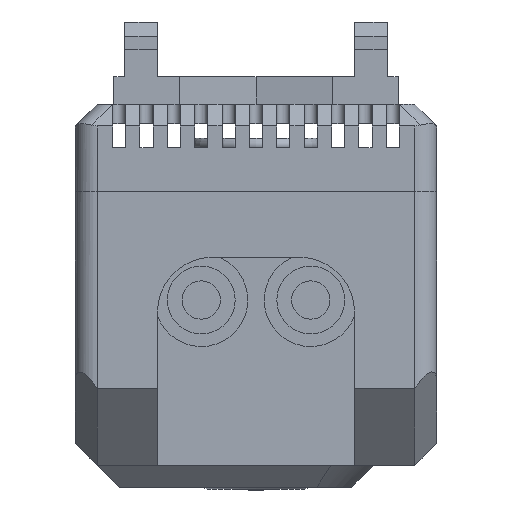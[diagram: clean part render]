
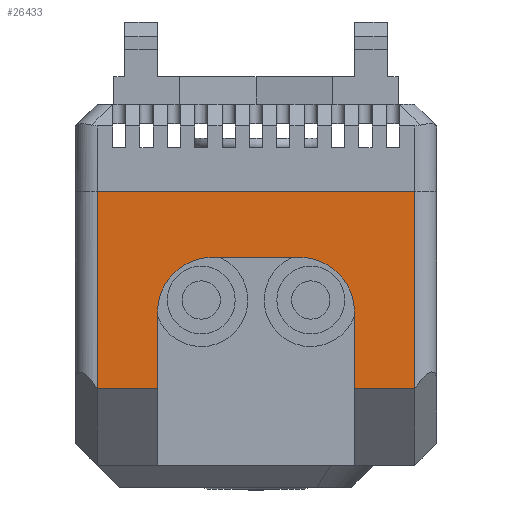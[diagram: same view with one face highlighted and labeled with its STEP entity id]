
A CAD part, front view. The second image highlights one B-rep face of the part: STEP entity #26433.
In plain terms, the highlighted planar face has unit normal (0, -1, 0).
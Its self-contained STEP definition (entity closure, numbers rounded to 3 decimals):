
#1014 = LINE ( 'NONE', #8081, #26251 ) ;
#1124 = CARTESIAN_POINT ( 'NONE',  ( 4., -25., -9.6 ) ) ;
#1125 = VERTEX_POINT ( 'NONE', #41318 ) ;
#1168 = CARTESIAN_POINT ( 'NONE',  ( 9., -25., -31.768 ) ) ;
#1449 = EDGE_LOOP ( 'NONE', ( #40137, #11754, #21294, #13868, #14195, #7949, #44803, #25731, #36512, #7000 ) ) ;
#1911 = VERTEX_POINT ( 'NONE', #7037 ) ;
#3023 = VERTEX_POINT ( 'NONE', #3841 ) ;
#3841 = CARTESIAN_POINT ( 'NONE',  ( 14.5, -25., -21.6 ) ) ;
#4834 = LINE ( 'NONE', #16081, #6311 ) ;
#6072 = VECTOR ( 'NONE', #19227, 1000. ) ;
#6311 = VECTOR ( 'NONE', #30997, 1000. ) ;
#6476 = CARTESIAN_POINT ( 'NONE',  ( -9., -25., -14.6 ) ) ;
#6629 = CARTESIAN_POINT ( 'NONE',  ( -14.5, -25., -28.6 ) ) ;
#7000 = ORIENTED_EDGE ( 'NONE', *, *, #46413, .T. ) ;
#7037 = CARTESIAN_POINT ( 'NONE',  ( -14.5, -25., -21.6 ) ) ;
#7644 = AXIS2_PLACEMENT_3D ( 'NONE', #38660, #21159, #31031 ) ;
#7949 = ORIENTED_EDGE ( 'NONE', *, *, #43949, .F. ) ;
#8081 = CARTESIAN_POINT ( 'NONE',  ( 14.5, -25., -28.6 ) ) ;
#8209 = VECTOR ( 'NONE', #17391, 1000. ) ;
#9124 = VERTEX_POINT ( 'NONE', #6476 ) ;
#10249 = VERTEX_POINT ( 'NONE', #17244 ) ;
#10887 = EDGE_CURVE ( 'NONE', #9124, #10249, #4834, .T. ) ;
#10908 = AXIS2_PLACEMENT_3D ( 'NONE', #19461, #26557, #42255 ) ;
#11754 = ORIENTED_EDGE ( 'NONE', *, *, #33876, .T. ) ;
#12445 = CIRCLE ( 'NONE', #10908, 5. ) ;
#13425 = CARTESIAN_POINT ( 'NONE',  ( 14.5, -25., -21.6 ) ) ;
#13868 = ORIENTED_EDGE ( 'NONE', *, *, #10887, .F. ) ;
#14195 = ORIENTED_EDGE ( 'NONE', *, *, #21489, .F. ) ;
#14355 = LINE ( 'NONE', #17774, #17189 ) ;
#15563 = LINE ( 'NONE', #1168, #6072 ) ;
#15682 = CARTESIAN_POINT ( 'NONE',  ( -4., -25., -9.6 ) ) ;
#15879 = VERTEX_POINT ( 'NONE', #25512 ) ;
#16081 = CARTESIAN_POINT ( 'NONE',  ( -9., -25., -31.768 ) ) ;
#17048 = VERTEX_POINT ( 'NONE', #1124 ) ;
#17189 = VECTOR ( 'NONE', #18019, 1000. ) ;
#17244 = CARTESIAN_POINT ( 'NONE',  ( -9., -25., -21.6 ) ) ;
#17391 = DIRECTION ( 'NONE',  ( 0., 0., -1. ) ) ;
#17646 = EDGE_CURVE ( 'NONE', #1125, #3023, #32024, .T. ) ;
#17774 = CARTESIAN_POINT ( 'NONE',  ( 14.5, -25., -3.6 ) ) ;
#18019 = DIRECTION ( 'NONE',  ( -1., 0., 0. ) ) ;
#19110 = LINE ( 'NONE', #15682, #30064 ) ;
#19227 = DIRECTION ( 'NONE',  ( 0., 0., 1. ) ) ;
#19332 = EDGE_CURVE ( 'NONE', #1911, #10249, #27831, .T. ) ;
#19461 = CARTESIAN_POINT ( 'NONE',  ( 4., -25., -14.6 ) ) ;
#20962 = DIRECTION ( 'NONE',  ( 1., 0., 0. ) ) ;
#21159 = DIRECTION ( 'NONE',  ( 0., -1., 0. ) ) ;
#21294 = ORIENTED_EDGE ( 'NONE', *, *, #19332, .T. ) ;
#21414 = VERTEX_POINT ( 'NONE', #22723 ) ;
#21489 = EDGE_CURVE ( 'NONE', #39436, #9124, #43620, .T. ) ;
#21570 = DIRECTION ( 'NONE',  ( 0., 1., 0. ) ) ;
#22045 = PLANE ( 'NONE',  #31363 ) ;
#22723 = CARTESIAN_POINT ( 'NONE',  ( 9., -25., -14.6 ) ) ;
#23723 = DIRECTION ( 'NONE',  ( 0., 0., 1. ) ) ;
#24640 = EDGE_CURVE ( 'NONE', #45839, #15879, #14355, .T. ) ;
#24955 = LINE ( 'NONE', #6629, #8209 ) ;
#25248 = DIRECTION ( 'NONE',  ( 1., 0., 0. ) ) ;
#25512 = CARTESIAN_POINT ( 'NONE',  ( -14.5, -25., -3.6 ) ) ;
#25731 = ORIENTED_EDGE ( 'NONE', *, *, #48262, .F. ) ;
#26251 = VECTOR ( 'NONE', #23723, 1000. ) ;
#26433 = ADVANCED_FACE ( 'NONE', ( #32840 ), #22045, .F. ) ;
#26557 = DIRECTION ( 'NONE',  ( 0., -1., 0. ) ) ;
#27831 = LINE ( 'NONE', #31758, #27946 ) ;
#27946 = VECTOR ( 'NONE', #20962, 1000. ) ;
#28667 = CARTESIAN_POINT ( 'NONE',  ( 14.5, -25., -28.6 ) ) ;
#30064 = VECTOR ( 'NONE', #34763, 1000. ) ;
#30997 = DIRECTION ( 'NONE',  ( 0., 0., -1. ) ) ;
#31031 = DIRECTION ( 'NONE',  ( 0., 0., 1. ) ) ;
#31363 = AXIS2_PLACEMENT_3D ( 'NONE', #28667, #21570, #25248 ) ;
#31758 = CARTESIAN_POINT ( 'NONE',  ( 14.5, -25., -21.6 ) ) ;
#32024 = LINE ( 'NONE', #13425, #40221 ) ;
#32840 = FACE_OUTER_BOUND ( 'NONE', #1449, .T. ) ;
#33876 = EDGE_CURVE ( 'NONE', #15879, #1911, #24955, .T. ) ;
#34763 = DIRECTION ( 'NONE',  ( -1., 0., 0. ) ) ;
#36512 = ORIENTED_EDGE ( 'NONE', *, *, #17646, .T. ) ;
#36821 = CARTESIAN_POINT ( 'NONE',  ( -4., -25., -9.6 ) ) ;
#38111 = CARTESIAN_POINT ( 'NONE',  ( 14.5, -25., -3.6 ) ) ;
#38660 = CARTESIAN_POINT ( 'NONE',  ( -4., -25., -14.6 ) ) ;
#39065 = EDGE_CURVE ( 'NONE', #21414, #17048, #12445, .T. ) ;
#39436 = VERTEX_POINT ( 'NONE', #36821 ) ;
#40137 = ORIENTED_EDGE ( 'NONE', *, *, #24640, .T. ) ;
#40221 = VECTOR ( 'NONE', #47456, 1000. ) ;
#41318 = CARTESIAN_POINT ( 'NONE',  ( 9., -25., -21.6 ) ) ;
#42255 = DIRECTION ( 'NONE',  ( 0., 0., -1. ) ) ;
#43620 = CIRCLE ( 'NONE', #7644, 5. ) ;
#43949 = EDGE_CURVE ( 'NONE', #17048, #39436, #19110, .T. ) ;
#44803 = ORIENTED_EDGE ( 'NONE', *, *, #39065, .F. ) ;
#45839 = VERTEX_POINT ( 'NONE', #38111 ) ;
#46413 = EDGE_CURVE ( 'NONE', #3023, #45839, #1014, .T. ) ;
#47456 = DIRECTION ( 'NONE',  ( 1., 0., 0. ) ) ;
#48262 = EDGE_CURVE ( 'NONE', #1125, #21414, #15563, .T. ) ;
